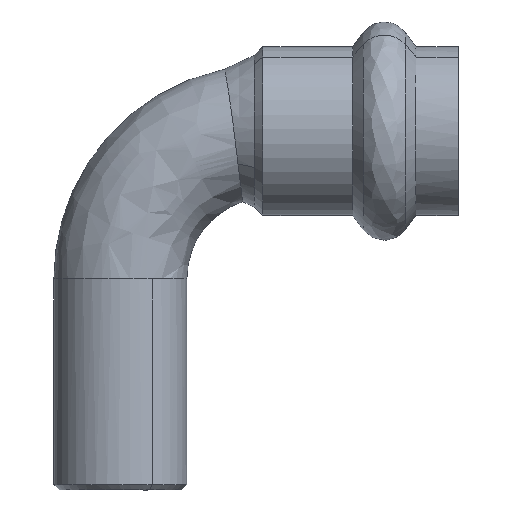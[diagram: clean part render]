
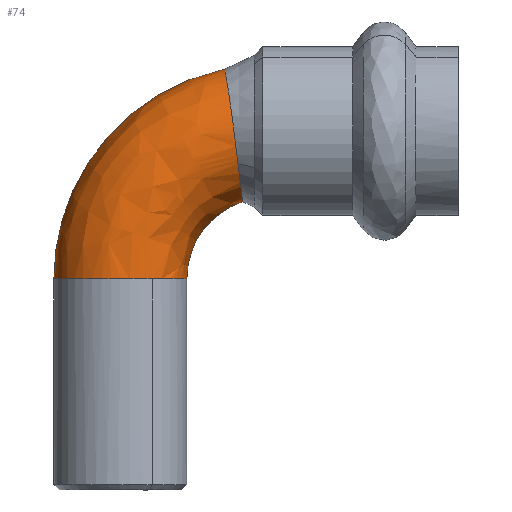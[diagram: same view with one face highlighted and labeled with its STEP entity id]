
A CAD part, front view. The second image highlights one B-rep face of the part: STEP entity #74.
In plain terms, the highlighted free-form (B-spline) face has degree [2, 2] with [9, 3] control points.
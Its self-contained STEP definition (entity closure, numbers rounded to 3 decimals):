
#74=ADVANCED_FACE('',(#154),#155,.T.);
#154=FACE_OUTER_BOUND('',#358,.T.);
#155=(B_SPLINE_SURFACE(2,2,((#360,#361,#362),(#363,#364,#365),(#366,#367,#368),(#369,#370,#371),(#372,#373,#374),(#375,#376,#377),(#378,#379,#380),(#381,#382,#383),(#384,#385,#386)),.UNSPECIFIED.,.T.,.F.,.F.)B_SPLINE_SURFACE_WITH_KNOTS((3,2,2,2,3),(3,3),(-3.142,-1.571,0.,1.571,3.142),(0.0,1.451),.UNSPECIFIED.)RATIONAL_B_SPLINE_SURFACE(((1.0,0.748,1.0),(0.707,0.529,0.707),(1.0,0.748,1.0),(0.707,0.529,0.707),(1.0,0.748,1.0),(0.707,0.529,0.707),(1.0,0.748,1.0),(0.707,0.529,0.707),(1.0,0.748,1.0)))BOUNDED_SURFACE()REPRESENTATION_ITEM('')GEOMETRIC_REPRESENTATION_ITEM()SURFACE());
#358=EDGE_LOOP('',(#635,#636,#637,#638,#639,#640,#641));
#360=CARTESIAN_POINT('',(6.3,0.,-14.));
#361=CARTESIAN_POINT('',(6.3,0.,-7.172));
#362=CARTESIAN_POINT('',(13.079,0.,-6.355));
#363=CARTESIAN_POINT('',(6.3,6.3,-14.));
#364=CARTESIAN_POINT('',(6.3,6.3,-7.172));
#365=CARTESIAN_POINT('',(13.079,6.3,-6.355));
#366=CARTESIAN_POINT('',(0.,6.3,-14.));
#367=CARTESIAN_POINT('',(0.,6.3,-1.586));
#368=CARTESIAN_POINT('',(12.325,6.3,-0.101));
#369=CARTESIAN_POINT('',(-6.3,6.3,-14.));
#370=CARTESIAN_POINT('',(-6.3,6.3,4.));
#371=CARTESIAN_POINT('',(11.571,6.3,6.154));
#372=CARTESIAN_POINT('',(-6.3,0.,-14.));
#373=CARTESIAN_POINT('',(-6.3,0.,4.));
#374=CARTESIAN_POINT('',(11.571,0.,6.154));
#375=CARTESIAN_POINT('',(-6.3,-6.3,-14.));
#376=CARTESIAN_POINT('',(-6.3,-6.3,4.));
#377=CARTESIAN_POINT('',(11.571,-6.3,6.154));
#378=CARTESIAN_POINT('',(0.,-6.3,-14.));
#379=CARTESIAN_POINT('',(0.,-6.3,-1.586));
#380=CARTESIAN_POINT('',(12.325,-6.3,-0.101));
#381=CARTESIAN_POINT('',(6.3,-6.3,-14.));
#382=CARTESIAN_POINT('',(6.3,-6.3,-7.172));
#383=CARTESIAN_POINT('',(13.079,-6.3,-6.355));
#384=CARTESIAN_POINT('',(6.3,0.,-14.));
#385=CARTESIAN_POINT('',(6.3,0.,-7.172));
#386=CARTESIAN_POINT('',(13.079,0.,-6.355));
#635=ORIENTED_EDGE('',*,*,#746,.T.);
#636=ORIENTED_EDGE('',*,*,#808,.T.);
#637=ORIENTED_EDGE('',*,*,#797,.T.);
#638=ORIENTED_EDGE('',*,*,#750,.T.);
#639=ORIENTED_EDGE('',*,*,#806,.F.);
#640=ORIENTED_EDGE('',*,*,#801,.F.);
#641=ORIENTED_EDGE('',*,*,#800,.T.);
#746=EDGE_CURVE('',#842,#843,#844,.T.);
#750=EDGE_CURVE('',#851,#849,#852,.T.);
#797=EDGE_CURVE('',#922,#851,#925,.T.);
#800=EDGE_CURVE('',#928,#842,#929,.T.);
#801=EDGE_CURVE('',#928,#930,#931,.T.);
#806=EDGE_CURVE('',#930,#849,#937,.T.);
#808=EDGE_CURVE('',#843,#922,#939,.T.);
#842=VERTEX_POINT('',#1030);
#843=VERTEX_POINT('',#1031);
#844=(B_SPLINE_CURVE(2,(#1033,#1034,#1035),.UNSPECIFIED.,.F.,.F.)B_SPLINE_CURVE_WITH_KNOTS((3,3),(-1.451,-0.0),.UNSPECIFIED.)RATIONAL_B_SPLINE_CURVE((1.0,0.748,1.0))BOUNDED_CURVE()REPRESENTATION_ITEM('')GEOMETRIC_REPRESENTATION_ITEM()CURVE());
#849=VERTEX_POINT('',#1100);
#851=VERTEX_POINT('',#1107);
#852=(B_SPLINE_CURVE(2,(#1109,#1110,#1111),.UNSPECIFIED.,.F.,.F.)B_SPLINE_CURVE_WITH_KNOTS((3,3),(4.029,5.284),.UNSPECIFIED.)RATIONAL_B_SPLINE_CURVE((1.0,0.81,1.0))BOUNDED_CURVE()REPRESENTATION_ITEM('')GEOMETRIC_REPRESENTATION_ITEM()CURVE());
#922=VERTEX_POINT('',#1311);
#925=(B_SPLINE_CURVE(2,(#1317,#1318,#1319,#1320,#1321),.UNSPECIFIED.,.F.,.F.)B_SPLINE_CURVE_WITH_KNOTS((3,2,3),(0.,1.571,3.142),.UNSPECIFIED.)RATIONAL_B_SPLINE_CURVE((1.0,0.707,1.0,0.707,1.0))BOUNDED_CURVE()REPRESENTATION_ITEM('')GEOMETRIC_REPRESENTATION_ITEM()CURVE());
#928=VERTEX_POINT('',#1331);
#929=B_SPLINE_CURVE_WITH_KNOTS('',3,(#1332,#1333,#1334,#1335,#1336,#1337),.UNSPECIFIED.,.F.,.F.,(4,2,4),(0.0,0.5,1.0),.UNSPECIFIED.);
#930=VERTEX_POINT('',#1338);
#931=B_SPLINE_CURVE_WITH_KNOTS('',3,(#1339,#1340,#1341,#1342,#1343,#1344,#1345,#1346,#1347,#1348,#1349,#1350,#1351,#1352,#1353,#1354,#1355,#1356,#1357,#1358,#1359,#1360),.UNSPECIFIED.,.F.,.F.,(4,2,2,2,2,2,2,2,2,2,4),(0.0,0.125,0.25,0.375,0.5,0.625,0.75,0.813,0.875,0.938,1.0),.UNSPECIFIED.);
#937=B_SPLINE_CURVE_WITH_KNOTS('',3,(#1367,#1368,#1369,#1370,#1371,#1372,#1373,#1374,#1375,#1376,#1377,#1378,#1379,#1380,#1381,#1382,#1383,#1384,#1385,#1386,#1387,#1388),.UNSPECIFIED.,.F.,.F.,(4,2,2,2,2,2,2,2,2,2,4),(0.0,0.125,0.25,0.375,0.5,0.625,0.75,0.813,0.875,0.938,1.0),.UNSPECIFIED.);
#939=(B_SPLINE_CURVE(2,(#1391,#1392,#1393,#1394,#1395),.UNSPECIFIED.,.F.,.F.)B_SPLINE_CURVE_WITH_KNOTS((3,2,3),(0.,1.571,3.142),.UNSPECIFIED.)RATIONAL_B_SPLINE_CURVE((1.0,0.707,1.0,0.707,1.0))BOUNDED_CURVE()REPRESENTATION_ITEM('')GEOMETRIC_REPRESENTATION_ITEM()CURVE());
#1030=CARTESIAN_POINT('',(9.875,0.,5.876));
#1031=CARTESIAN_POINT('',(-6.3,0.,-14.));
#1033=CARTESIAN_POINT('',(11.571,0.,6.154));
#1034=CARTESIAN_POINT('',(-6.3,0.,4.));
#1035=CARTESIAN_POINT('',(-6.3,0.,-14.));
#1100=CARTESIAN_POINT('',(11.603,0.,-6.682));
#1107=CARTESIAN_POINT('',(6.3,0.,-14.));
#1109=CARTESIAN_POINT('',(6.3,0.,-14.));
#1110=CARTESIAN_POINT('',(6.3,0.,-8.419));
#1111=CARTESIAN_POINT('',(11.603,0.,-6.682));
#1311=CARTESIAN_POINT('',(3.02,-5.529,-14.));
#1317=CARTESIAN_POINT('',(-6.3,0.,-14.));
#1318=CARTESIAN_POINT('',(-6.3,-6.3,-14.));
#1319=CARTESIAN_POINT('',(0.,-6.3,-14.));
#1320=CARTESIAN_POINT('',(6.3,-6.3,-14.));
#1321=CARTESIAN_POINT('',(6.3,0.,-14.));
#1331=CARTESIAN_POINT('',(10.002,-2.846,5.209));
#1332=CARTESIAN_POINT('',(10.002,-2.846,5.209));
#1333=CARTESIAN_POINT('',(9.962,-2.403,5.429));
#1334=CARTESIAN_POINT('',(9.93,-1.944,5.594));
#1335=CARTESIAN_POINT('',(9.887,-0.991,5.818));
#1336=CARTESIAN_POINT('',(9.875,-0.496,5.876));
#1337=CARTESIAN_POINT('',(9.875,0.,5.876));
#1338=CARTESIAN_POINT('',(11.144,-5.677,-3.101));
#1339=CARTESIAN_POINT('',(10.002,-2.846,5.209));
#1340=CARTESIAN_POINT('',(10.059,-3.48,4.893));
#1341=CARTESIAN_POINT('',(10.13,-4.043,4.482));
#1342=CARTESIAN_POINT('',(10.289,-5.029,3.471));
#1343=CARTESIAN_POINT('',(10.374,-5.424,2.898));
#1344=CARTESIAN_POINT('',(10.551,-6.018,1.619));
#1345=CARTESIAN_POINT('',(10.639,-6.2,0.948));
#1346=CARTESIAN_POINT('',(10.818,-6.339,-0.455));
#1347=CARTESIAN_POINT('',(10.904,-6.291,-1.15));
#1348=CARTESIAN_POINT('',(11.072,-5.962,-2.52));
#1349=CARTESIAN_POINT('',(11.151,-5.69,-3.163));
#1350=CARTESIAN_POINT('',(11.299,-4.932,-4.353));
#1351=CARTESIAN_POINT('',(11.365,-4.464,-4.874));
#1352=CARTESIAN_POINT('',(11.45,-3.635,-5.533));
#1353=CARTESIAN_POINT('',(11.476,-3.341,-5.729));
#1354=CARTESIAN_POINT('',(11.52,-2.729,-6.068));
#1355=CARTESIAN_POINT('',(11.54,-2.409,-6.211));
#1356=CARTESIAN_POINT('',(11.571,-1.742,-6.445));
#1357=CARTESIAN_POINT('',(11.583,-1.398,-6.534));
#1358=CARTESIAN_POINT('',(11.599,-0.706,-6.652));
#1359=CARTESIAN_POINT('',(11.603,-0.355,-6.682));
#1360=CARTESIAN_POINT('',(11.603,0.,-6.682));
#1367=CARTESIAN_POINT('',(10.002,-2.846,5.209));
#1368=CARTESIAN_POINT('',(10.059,-3.48,4.893));
#1369=CARTESIAN_POINT('',(10.13,-4.043,4.482));
#1370=CARTESIAN_POINT('',(10.289,-5.029,3.471));
#1371=CARTESIAN_POINT('',(10.374,-5.424,2.898));
#1372=CARTESIAN_POINT('',(10.551,-6.018,1.619));
#1373=CARTESIAN_POINT('',(10.639,-6.2,0.948));
#1374=CARTESIAN_POINT('',(10.818,-6.339,-0.455));
#1375=CARTESIAN_POINT('',(10.904,-6.291,-1.15));
#1376=CARTESIAN_POINT('',(11.072,-5.962,-2.52));
#1377=CARTESIAN_POINT('',(11.151,-5.69,-3.163));
#1378=CARTESIAN_POINT('',(11.299,-4.932,-4.353));
#1379=CARTESIAN_POINT('',(11.365,-4.464,-4.874));
#1380=CARTESIAN_POINT('',(11.45,-3.635,-5.533));
#1381=CARTESIAN_POINT('',(11.476,-3.341,-5.729));
#1382=CARTESIAN_POINT('',(11.52,-2.729,-6.068));
#1383=CARTESIAN_POINT('',(11.54,-2.409,-6.211));
#1384=CARTESIAN_POINT('',(11.571,-1.742,-6.445));
#1385=CARTESIAN_POINT('',(11.583,-1.398,-6.534));
#1386=CARTESIAN_POINT('',(11.599,-0.706,-6.652));
#1387=CARTESIAN_POINT('',(11.603,-0.355,-6.682));
#1388=CARTESIAN_POINT('',(11.603,0.,-6.682));
#1391=CARTESIAN_POINT('',(-6.3,0.,-14.));
#1392=CARTESIAN_POINT('',(-6.3,-6.3,-14.));
#1393=CARTESIAN_POINT('',(0.,-6.3,-14.));
#1394=CARTESIAN_POINT('',(6.3,-6.3,-14.));
#1395=CARTESIAN_POINT('',(6.3,0.,-14.));
